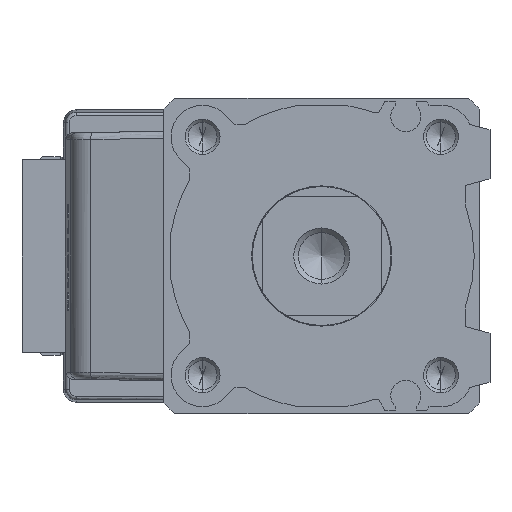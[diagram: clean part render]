
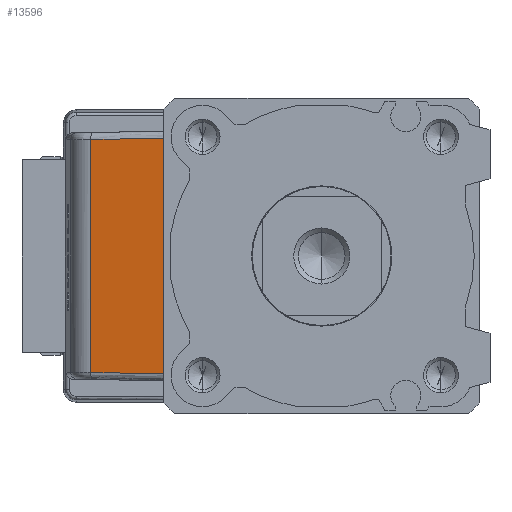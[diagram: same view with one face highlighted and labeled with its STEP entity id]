
A CAD part, left-side view. The second image highlights one B-rep face of the part: STEP entity #13596.
In plain terms, the highlighted planar face has unit normal (-0.985, 0.174, 0) as drawn and (0, 0.174, 0.985) by its records, which use the part's own axes.
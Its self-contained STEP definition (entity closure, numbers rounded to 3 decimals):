
#733 = VERTEX_POINT ( 'NONE', #25475 ) ;
#1429 = VECTOR ( 'NONE', #3474, 1000. ) ;
#3348 = ORIENTED_EDGE ( 'NONE', *, *, #35355, .T. ) ;
#3419 = ORIENTED_EDGE ( 'NONE', *, *, #22318, .T. ) ;
#3474 = DIRECTION ( 'NONE',  ( 1., 0., 0. ) ) ;
#5757 = LINE ( 'NONE', #17882, #25129 ) ;
#10528 = EDGE_LOOP ( 'NONE', ( #38861, #19582, #3419, #3348 ) ) ;
#10710 = EDGE_CURVE ( 'NONE', #30980, #733, #5757, .T. ) ;
#11765 = CARTESIAN_POINT ( 'NONE',  ( 16.617, 32.922, -40.379 ) ) ;
#12046 = LINE ( 'NONE', #33727, #20148 ) ;
#13596 = ADVANCED_FACE ( 'NONE', ( #40161 ), #30363, .F. ) ;
#14799 = DIRECTION ( 'NONE',  ( -1., 0., 0. ) ) ;
#15397 = VERTEX_POINT ( 'NONE', #31908 ) ;
#15423 = CARTESIAN_POINT ( 'NONE',  ( -16.825, 20.983, -38.274 ) ) ;
#17882 = CARTESIAN_POINT ( 'NONE',  ( -17.568, 32.922, -40.379 ) ) ;
#18095 = LINE ( 'NONE', #15423, #25302 ) ;
#19582 = ORIENTED_EDGE ( 'NONE', *, *, #37818, .T. ) ;
#20148 = VECTOR ( 'NONE', #36619, 1000. ) ;
#21318 = LINE ( 'NONE', #40330, #1429 ) ;
#21548 = CARTESIAN_POINT ( 'NONE',  ( 16.825, 21., -38.277 ) ) ;
#21963 = DIRECTION ( 'NONE',  ( 1., 0., 0. ) ) ;
#22318 = EDGE_CURVE ( 'NONE', #15397, #36734, #21318, .T. ) ;
#24836 = DIRECTION ( 'NONE',  ( 0., -0.174, -0.985 ) ) ;
#25129 = VECTOR ( 'NONE', #14799, 1000. ) ;
#25302 = VECTOR ( 'NONE', #33625, 1000. ) ;
#25475 = CARTESIAN_POINT ( 'NONE',  ( -16.617, 32.922, -40.379 ) ) ;
#28104 = CARTESIAN_POINT ( 'NONE',  ( 0., 21.26, -38.323 ) ) ;
#29644 = AXIS2_PLACEMENT_3D ( 'NONE', #28104, #24836, #21963 ) ;
#30363 = PLANE ( 'NONE',  #29644 ) ;
#30980 = VERTEX_POINT ( 'NONE', #11765 ) ;
#31908 = CARTESIAN_POINT ( 'NONE',  ( -16.825, 21., -38.277 ) ) ;
#33625 = DIRECTION ( 'NONE',  ( -0.017, -0.985, 0.174 ) ) ;
#33727 = CARTESIAN_POINT ( 'NONE',  ( 16.617, 32.905, -40.376 ) ) ;
#35355 = EDGE_CURVE ( 'NONE', #36734, #30980, #12046, .T. ) ;
#36619 = DIRECTION ( 'NONE',  ( -0.017, 0.985, -0.174 ) ) ;
#36734 = VERTEX_POINT ( 'NONE', #21548 ) ;
#37818 = EDGE_CURVE ( 'NONE', #733, #15397, #18095, .T. ) ;
#38861 = ORIENTED_EDGE ( 'NONE', *, *, #10710, .T. ) ;
#40161 = FACE_OUTER_BOUND ( 'NONE', #10528, .T. ) ;
#40330 = CARTESIAN_POINT ( 'NONE',  ( 0., 21., -38.277 ) ) ;
